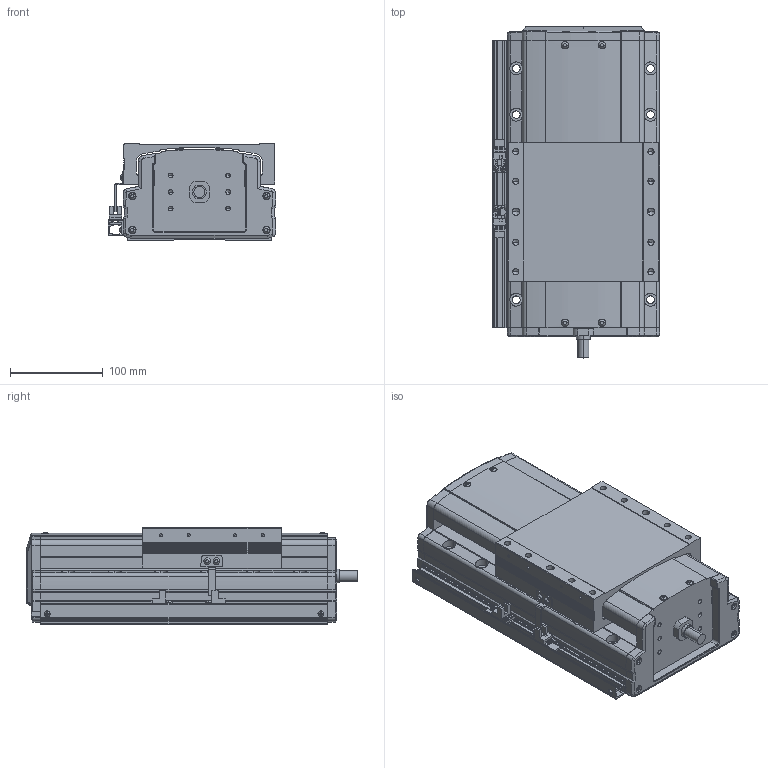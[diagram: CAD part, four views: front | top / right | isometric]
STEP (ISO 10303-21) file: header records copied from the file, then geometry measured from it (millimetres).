
FILE_DESCRIPTION(('STEP AP214'),'1');
FILE_NAME('Z:/Web/3D/PSA165/STP/PSA165-050 (3D)/PSA165ㅁㅁ-050+2SL.stp','2014-06-23T06:15:13',(' '),(' '),'Spatial InterOp 3D',' ',' ');
FILE_SCHEMA(('automotive_design'));
Length unit declared in the file: millimetre
Products named in the file (32): 스크루 : Round - M4.0 x 12.0; RRCV-PA160; BASE; 스크루 : Round - M4.0 x 10.0; RN15; Screw 20; SLIDE; FRCV; M3.0 x 6.0; SRL-16x17-360L; SGD-SAN150; EE-SX674; SBK-SX674-352; 스크루 : Round - M3.0 x 6.0; BHCS M4.0 x 10.0
Bounding box: 181 x 358.8 x 104 mm (x, y, z)
Volume: 4793463.4 mm3; surface area: 449228.3 mm2
Topology: 32 solids, 32 shells, 2155 faces, 5801 edges, 3742 vertices
Faces by surface type: plane 1288, cylinder 615, cone 163, sphere 48, bspline 25, torus 16
Entity records: 87796 total; most frequent: CARTESIAN_POINT 15314, DIRECTION 11467, ORIENTED_EDGE 11402, EDGE_CURVE 5701, LINE 3969, VECTOR 3969, AXIS2_PLACEMENT_3D 3749, VERTEX_POINT 3742
